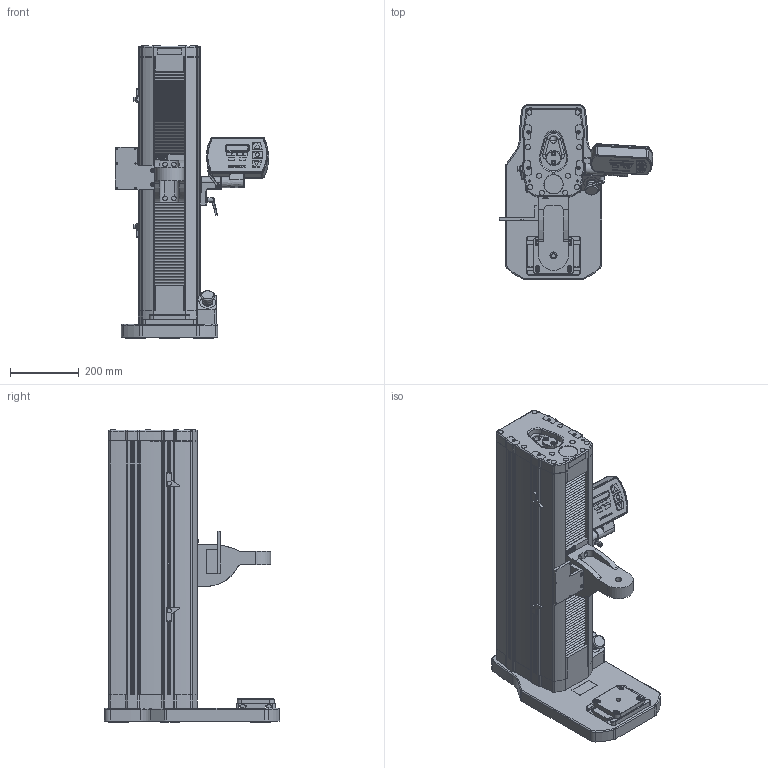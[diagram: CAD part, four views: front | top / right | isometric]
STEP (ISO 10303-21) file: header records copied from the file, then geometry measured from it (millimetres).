
FILE_DESCRIPTION((''),'2;1');
FILE_NAME('F:\CAD files\Itr\3D MARKETING MODELS\MOTORIZED TEST STANDS\ESM750SLC\ESM750SLC.stp','2017-09-13T14:32:24',('mlampen'),(''),'Autodesk Inventor 2010','Autodesk Inventor 2010','');
FILE_SCHEMA(('AUTOMOTIVE_DESIGN { 1 0 10303 214 1 1 1 1 }'));
Length unit declared in the file: inch
Products named in the file (4): Assembly1; Part2; Part4; Part6
Assembly tree (3 placements, depth 2):
  Assembly1
    Part2
    Part4
    Part6
Bounding box: 445 x 508 x 849.27 mm (x, y, z)
Volume: 41233965.9 mm3; surface area: 1688780.3 mm2
Topology: 20 solids, 28 shells, 5364 faces, 14059 edges, 9057 vertices
Faces by surface type: plane 2725, cylinder 1325, bspline 846, cone 300, torus 136, sphere 32
Full cylindrical faces by diameter (mm): 0.4 x1, 0.6 x1, 1.015 x2, 1.2 x9, 1.55 x8, 1.797 x2, 2 x4, 2.13 x1, 2.261 x2, 2.84 x2, 2.845 x10, 3.048 x8, 3.175 x4, 3.302 x4, 3.328 x1, 3.429 x8, 3.81 x10, 4.166 x2, 4.826 x2, 5.105 x2, 5.131 x1, 5.41 x8, 5.5 x2, 5.563 x2, 6.35 x17, 6.858 x5, 7.366 x2, 7.925 x1, 7.937 x1, 7.938 x10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
Entity records: 176951 total; most frequent: CARTESIAN_POINT 47694, ORIENTED_EDGE 27028, DIRECTION 25033, EDGE_CURVE 13514, VECTOR 9383, LINE 9383, VERTEX_POINT 8872, AXIS2_PLACEMENT_3D 7825
